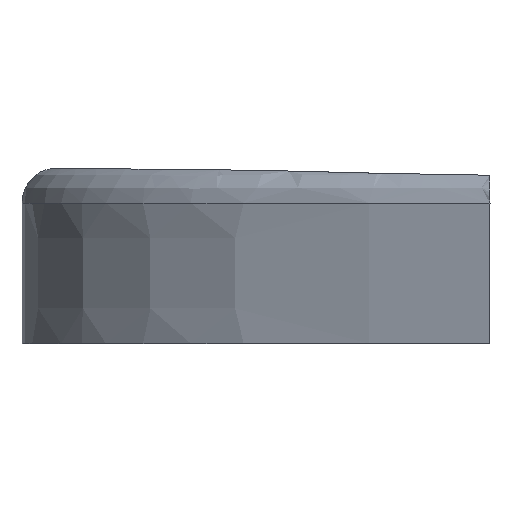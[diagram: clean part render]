
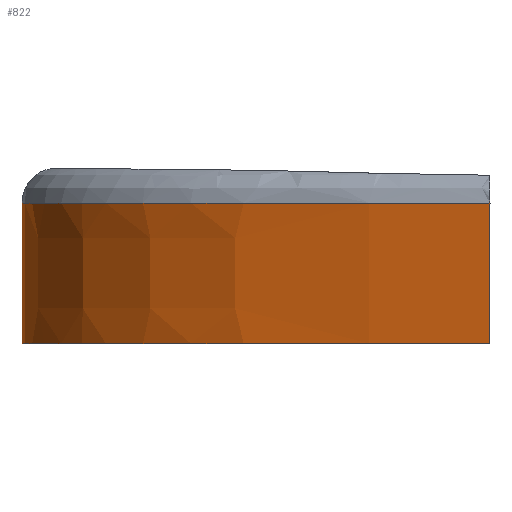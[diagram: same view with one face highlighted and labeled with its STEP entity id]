
A CAD part, left-side view. The second image highlights one B-rep face of the part: STEP entity #822.
In plain terms, the highlighted face is a extrusion surface.
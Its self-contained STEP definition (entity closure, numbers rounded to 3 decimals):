
#20=CARTESIAN_POINT('',(-40.,10.,0.));
#21=CARTESIAN_POINT('',(-60.83,10.,0.));
#22=CARTESIAN_POINT('',(-89.194,-15.994,0.));
#23=CARTESIAN_POINT('',(-100.406,-56.822,0.));
#24=CARTESIAN_POINT('',(-105.,-70.,0.));
#129=CARTESIAN_POINT('',(-40.,10.,24.));
#130=CARTESIAN_POINT('',(-60.83,10.,24.));
#131=CARTESIAN_POINT('',(-89.194,-15.994,24.));
#132=CARTESIAN_POINT('',(-100.406,-56.822,24.));
#133=CARTESIAN_POINT('',(-105.,-70.,24.));
#135=DIRECTION('',(0.,0.,1.));
#136=VECTOR('',#135,24.);
#137=CARTESIAN_POINT('',(-40.,10.,0.));
#138=LINE('',#137,#136);
#151=CARTESIAN_POINT('',(-105.,-70.,24.));
#162=DIRECTION('',(0.,0.,1.));
#163=VECTOR('',#162,24.);
#164=CARTESIAN_POINT('',(-105.,-70.,0.));
#165=LINE('',#164,#163);
#264=CARTESIAN_POINT('',(-40.,10.,0.));
#265=VERTEX_POINT('',#264);
#266=VERTEX_POINT('',#24);
#271=VERTEX_POINT('',#151);
#272=VERTEX_POINT('',#129);
#803=CARTESIAN_POINT('',(-105.366,-71.043,0.));
#804=CARTESIAN_POINT('',(-105.244,-70.698,0.));
#805=CARTESIAN_POINT('',(-100.525,-57.256,0.));
#806=CARTESIAN_POINT('',(-89.194,-15.994,0.));
#807=CARTESIAN_POINT('',(-60.528,10.276,0.));
#808=CARTESIAN_POINT('',(-39.259,9.995,0.));
#809=CARTESIAN_POINT('',(-38.887,9.985,0.));
#811=DIRECTION('',(0.,0.,1.));
#812=VECTOR('',#811,1.);
#813=SURFACE_OF_LINEAR_EXTRUSION('',#810,#812);
#815=ORIENTED_EDGE('',*,*,#814,.T.);
#817=ORIENTED_EDGE('',*,*,#816,.F.);
#818=ORIENTED_EDGE('',*,*,#315,.F.);
#819=ORIENTED_EDGE('',*,*,#783,.T.);
#820=EDGE_LOOP('',(#815,#817,#818,#819));
#821=FACE_OUTER_BOUND('',#820,.F.);
#822=ADVANCED_FACE('',(#821),#813,.F.);
#25=B_SPLINE_CURVE_WITH_KNOTS('',3,(#20,#21,#22,#23,#24),.UNSPECIFIED.,.F.,.F.,(
4,1,4),(0.,0.599,1.),.UNSPECIFIED.);
#134=B_SPLINE_CURVE_WITH_KNOTS('',3,(#129,#130,#131,#132,#133),.UNSPECIFIED.,
.F.,.F.,(4,1,4),(0.,0.599,1.),.UNSPECIFIED.);
#315=EDGE_CURVE('',#265,#266,#25,.T.);
#783=EDGE_CURVE('',#265,#272,#138,.T.);
#810=B_SPLINE_CURVE_WITH_KNOTS('',3,(#803,#804,#805,#806,#807,#808,#809),
.UNSPECIFIED.,.F.,.F.,(4,1,1,1,4),(0.,0.01,0.403,
0.99,1.),.UNSPECIFIED.);
#814=EDGE_CURVE('',#272,#271,#134,.T.);
#816=EDGE_CURVE('',#266,#271,#165,.T.);
